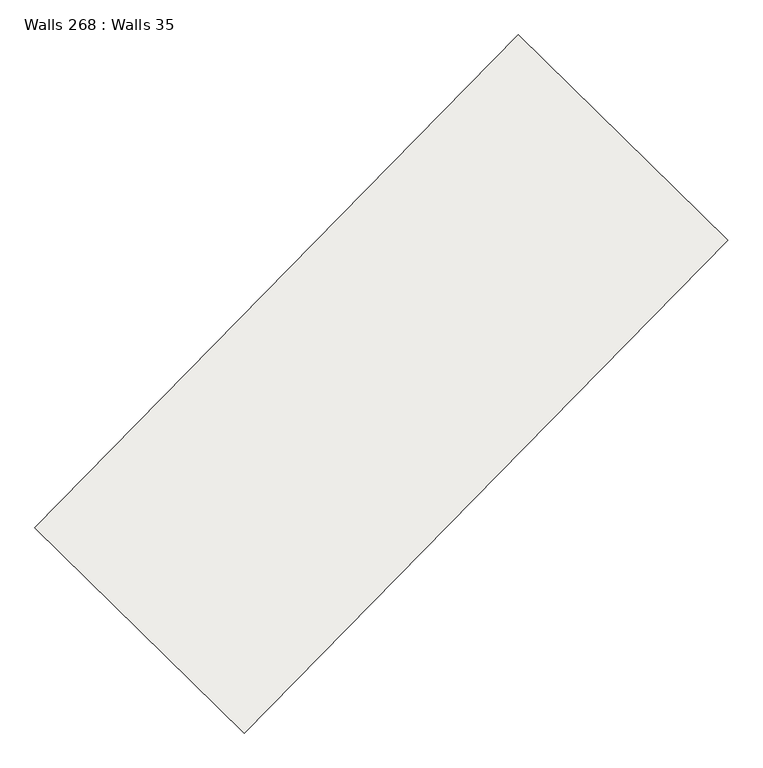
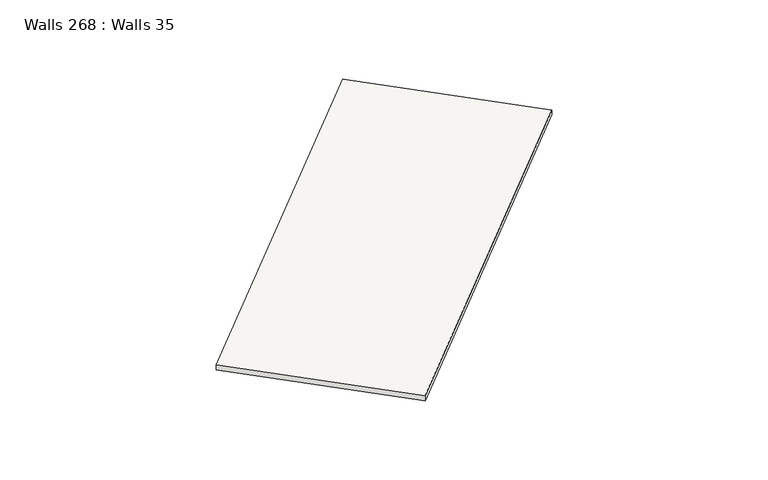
"""IFC4 building model written with IfcOpenShell, lengths in millimetres: slab geometry, Walls 268 : Walls 35."""

from ifc_helpers import new_model, si_unit, frame, origin, place, context, project, spatial, polyline, outline, extrude, source, transform, mapped, element, save


def walls_268_walls_35_cf2800b0(model_context):
    return source(origin(), model_context, "Body", "SweptSolid", [
        extrude(outline(polyline([(-50.0, 0.0), (50.0, 0.0), (-40.0, -8699.9999944), (-140.0, -8699.9999944), (-50.0, 0.0)])), frame((-170571.1364863, -333160.3439796, 635570.0), z_axis=(-0.713736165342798, 0.7004146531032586, 0.0), x_axis=(0.0, 0.0, 1.0)), (0.0, 0.0, 1.0), 3699.999995),
    ])


if __name__ == "__main__":
    model = new_model("IFC4")
    model_context = context("Model", 3, world=origin())
    ifc_project = project(units=[si_unit("LENGTHUNIT", "METRE", prefix="MILLI")], contexts=[model_context])
    site = spatial("IfcSite", under=ifc_project)
    building = spatial("IfcBuilding", under=site)
    placement = place(None, origin())
    walls_268_walls_35_shape = walls_268_walls_35_cf2800b0(model_context)
    element("IfcSlab", 1, ObjectType="Walls 268 : Walls 35", at=placement, inside=building, context=model_context, shape_type="MappedRepresentation", body=[
        mapped(walls_268_walls_35_shape, transform((0.0, 0.0, 0.0), x_axis=(1.0, 0.0, 0.0), y_axis=(0.0, 1.0, 0.0), z_axis=(0.0, 0.0, 1.0))),
    ])
    save(model, "model.ifc")
